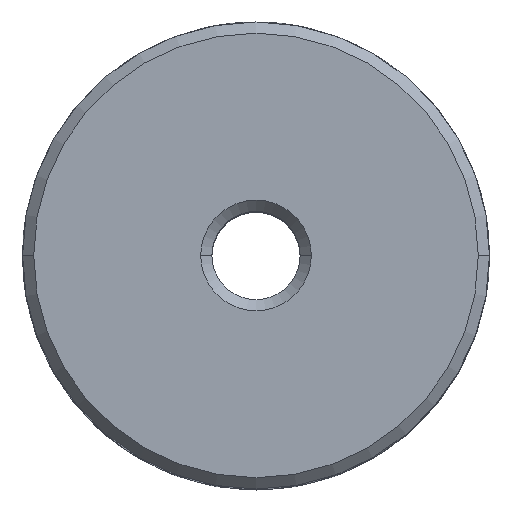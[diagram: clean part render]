
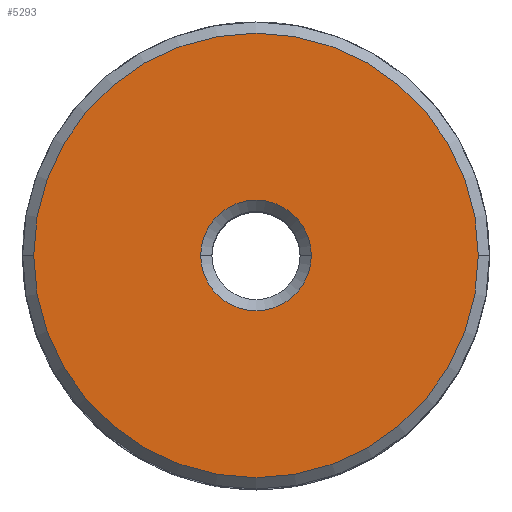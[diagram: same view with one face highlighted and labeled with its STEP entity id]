
A CAD part, top view. The second image highlights one B-rep face of the part: STEP entity #5293.
In plain terms, the highlighted planar face has unit normal (0, 0, 1).
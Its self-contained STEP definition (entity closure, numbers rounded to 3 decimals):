
#2270=CARTESIAN_POINT('',(-11.652,0.711,
10.745));
#2271=DIRECTION('',(0.,0.,1.));
#2272=DIRECTION('',(-1.,0.,0.));
#2273=AXIS2_PLACEMENT_3D('',#2270,#2271,#2272);
#2278=CARTESIAN_POINT('',(-11.652,0.711,
10.745));
#2279=DIRECTION('',(0.,0.,-1.));
#2280=DIRECTION('',(-1.,0.,0.));
#2281=AXIS2_PLACEMENT_3D('',#2278,#2279,#2280);
#2286=CARTESIAN_POINT('',(-11.652,0.711,
10.745));
#2287=DIRECTION('',(0.,0.,-1.));
#2288=DIRECTION('',(1.,0.,0.));
#2289=AXIS2_PLACEMENT_3D('',#2286,#2287,#2288);
#2301=CARTESIAN_POINT('',(-11.652,0.711,
10.745));
#2302=DIRECTION('',(0.,0.,1.));
#2303=DIRECTION('',(1.,0.,0.));
#2304=AXIS2_PLACEMENT_3D('',#2301,#2302,#2303);
#3272=CARTESIAN_POINT('',(-4.095,0.711,
10.745));
#3273=CARTESIAN_POINT('',(-19.208,0.711,
10.745));
#3274=VERTEX_POINT('',#3272);
#3275=VERTEX_POINT('',#3273);
#3276=CARTESIAN_POINT('',(-13.533,0.711,
10.745));
#3277=CARTESIAN_POINT('',(-9.771,0.711,
10.745));
#3278=VERTEX_POINT('',#3276);
#3279=VERTEX_POINT('',#3277);
#5277=CARTESIAN_POINT('',(-11.652,0.711,
10.745));
#5278=DIRECTION('',(0.,0.,1.));
#5279=DIRECTION('',(1.,0.,0.));
#5280=AXIS2_PLACEMENT_3D('',#5277,#5278,#5279);
#5281=PLANE('',#5280);
#5283=ORIENTED_EDGE('',*,*,#5282,.F.);
#5284=ORIENTED_EDGE('',*,*,#5267,.F.);
#5285=EDGE_LOOP('',(#5283,#5284));
#5286=FACE_OUTER_BOUND('',#5285,.F.);
#5288=ORIENTED_EDGE('',*,*,#5287,.F.);
#5290=ORIENTED_EDGE('',*,*,#5289,.F.);
#5291=EDGE_LOOP('',(#5288,#5290));
#5292=FACE_BOUND('',#5291,.F.);
#2274=CIRCLE('',#2273,7.557);
#2282=CIRCLE('',#2281,1.881);
#2290=CIRCLE('',#2289,1.881);
#2305=CIRCLE('',#2304,7.557);
#5267=EDGE_CURVE('',#3275,#3274,#2274,.T.);
#5282=EDGE_CURVE('',#3274,#3275,#2305,.T.);
#5287=EDGE_CURVE('',#3278,#3279,#2282,.T.);
#5289=EDGE_CURVE('',#3279,#3278,#2290,.T.);
#5293=ADVANCED_FACE('',(#5286,#5292),#5281,.T.);
